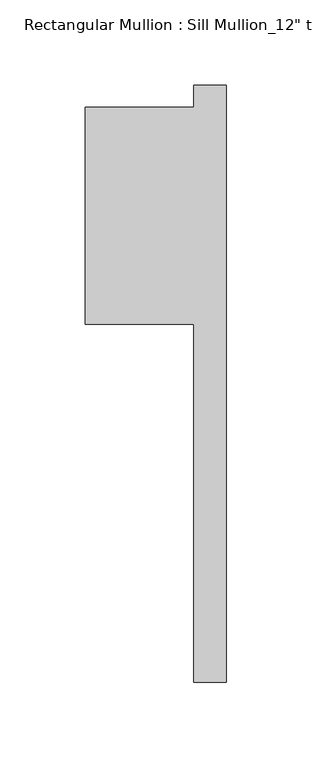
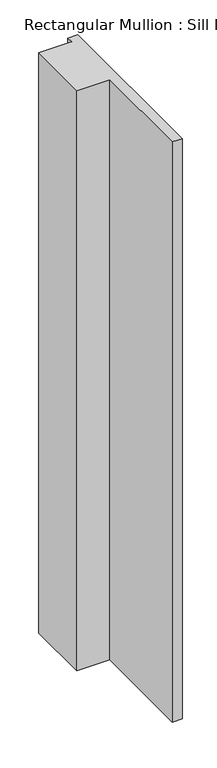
"""IFC4 building model written with IfcOpenShell, lengths in millimetres: member geometry."""

from ifc_helpers import new_model, si_unit, frame, origin, place, context, project, spatial, polyline, outline, extrude, source, transform, mapped, element, save


def member_39c07e5b(model_context):
    return source(origin(), model_context, "Body", "SweptSolid", [
        extrude(outline(polyline([(-82.55, -50.8), (-82.55, 76.2), (-19.05, 76.2), (-19.05, 88.9), (0.0, 88.9), (0.0, -260.35), (-19.05, -260.35), (-19.05, -50.8), (-82.55, -50.8)])), frame((0.0, 0.0, -1184.8041667), z_axis=(0.0, 0.0, 1.0), x_axis=(1.0, 0.0, 0.0)), (0.0, 0.0, 1.0), 1184.8041667),
    ])


if __name__ == "__main__":
    model = new_model("IFC4")
    model_context = context("Model", 3, world=origin())
    ifc_project = project(units=[si_unit("LENGTHUNIT", "METRE", prefix="MILLI")], contexts=[model_context])
    site = spatial("IfcSite", under=ifc_project)
    building = spatial("IfcBuilding", under=site)
    placement = place(None, origin())
    member_shape = member_39c07e5b(model_context)
    element("IfcMember", 1, ObjectType="Rectangular Mullion : Sill Mullion_12\" thick wall", at=placement, inside=building, context=model_context, shape_type="MappedRepresentation", body=[
        mapped(member_shape, transform((0.0, 0.0, 0.0), x_axis=(1.0, 0.0, 0.0), y_axis=(0.0, 1.0, 0.0), z_axis=(0.0, 0.0, 1.0))),
    ])
    save(model, "model.ifc")
